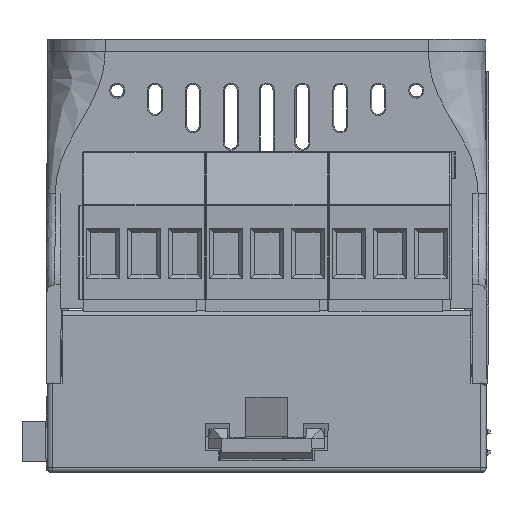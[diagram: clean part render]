
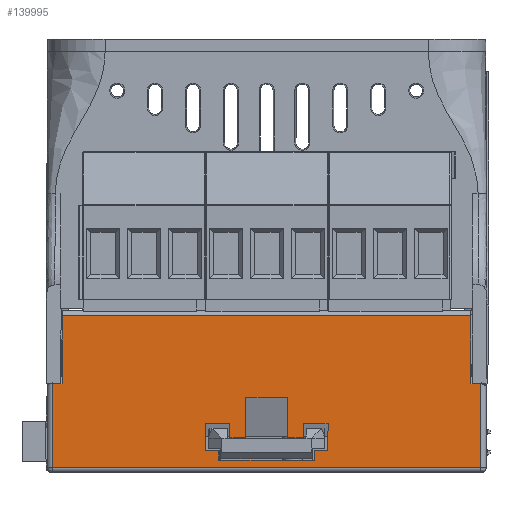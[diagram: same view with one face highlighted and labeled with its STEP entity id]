
A CAD part, front view. The second image highlights one B-rep face of the part: STEP entity #139995.
In plain terms, the highlighted planar face has unit normal (0, -1, 0).
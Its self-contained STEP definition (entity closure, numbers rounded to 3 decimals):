
#927=FACE_BOUND('',#21092,.T.);
#7355=PLANE('',#147864);
#13659=FACE_OUTER_BOUND('',#21091,.T.);
#21091=EDGE_LOOP('',(#106273,#106274,#106275,#106276,#106277,#106278,#106279,
#106280,#106281,#106282));
#21092=EDGE_LOOP('',(#106283,#106284,#106285,#106286,#106287,#106288,#106289,
#106290,#106291,#106292,#106293,#106294,#106295,#106296,#106297,#106298));
#32222=LINE('',#211479,#48170);
#32388=LINE('',#213374,#48336);
#32402=LINE('',#213592,#48350);
#32405=LINE('',#213603,#48353);
#32426=LINE('',#213655,#48374);
#33023=LINE('',#215056,#48971);
#33026=LINE('',#215061,#48974);
#33028=LINE('',#215065,#48976);
#33030=LINE('',#215069,#48978);
#33034=LINE('',#215075,#48982);
#33036=LINE('',#215079,#48984);
#33037=LINE('',#215082,#48985);
#33040=LINE('',#215087,#48988);
#33042=LINE('',#215091,#48990);
#33044=LINE('',#215095,#48992);
#33047=LINE('',#215100,#48995);
#33049=LINE('',#215104,#48997);
#33052=LINE('',#215109,#49000);
#33053=LINE('',#215112,#49001);
#33055=LINE('',#215116,#49003);
#33057=LINE('',#215119,#49005);
#33058=LINE('',#215122,#49006);
#33252=LINE('',#215628,#49200);
#33254=LINE('',#215631,#49202);
#33273=LINE('',#215675,#49221);
#33274=LINE('',#215677,#49222);
#48170=VECTOR('',#165152,1.);
#48336=VECTOR('',#165620,1.);
#48350=VECTOR('',#165662,1.);
#48353=VECTOR('',#165675,1.);
#48374=VECTOR('',#165712,1.);
#48971=VECTOR('',#166955,1.);
#48974=VECTOR('',#166960,1.);
#48976=VECTOR('',#166964,1.);
#48978=VECTOR('',#166968,1.);
#48982=VECTOR('',#166974,1.);
#48984=VECTOR('',#166978,1.);
#48985=VECTOR('',#166981,1.);
#48988=VECTOR('',#166986,1.);
#48990=VECTOR('',#166990,1.);
#48992=VECTOR('',#166994,1.);
#48995=VECTOR('',#166999,1.);
#48997=VECTOR('',#167003,1.);
#49000=VECTOR('',#167008,1.);
#49001=VECTOR('',#167011,1.);
#49003=VECTOR('',#167015,1.);
#49005=VECTOR('',#167019,1.);
#49006=VECTOR('',#167022,1.);
#49200=VECTOR('',#167504,1.);
#49202=VECTOR('',#167508,1.);
#49221=VECTOR('',#167555,1.);
#49222=VECTOR('',#167558,1.);
#62799=VERTEX_POINT('',#210680);
#62888=VERTEX_POINT('',#211477);
#63025=VERTEX_POINT('',#213371);
#63026=VERTEX_POINT('',#213373);
#63036=VERTEX_POINT('',#213590);
#63039=VERTEX_POINT('',#213602);
#63061=VERTEX_POINT('',#213652);
#63062=VERTEX_POINT('',#213654);
#63515=VERTEX_POINT('',#214963);
#63533=VERTEX_POINT('',#215053);
#63534=VERTEX_POINT('',#215055);
#63535=VERTEX_POINT('',#215059);
#63536=VERTEX_POINT('',#215063);
#63537=VERTEX_POINT('',#215068);
#63538=VERTEX_POINT('',#215073);
#63539=VERTEX_POINT('',#215077);
#63540=VERTEX_POINT('',#215081);
#63541=VERTEX_POINT('',#215086);
#63542=VERTEX_POINT('',#215090);
#63543=VERTEX_POINT('',#215094);
#63544=VERTEX_POINT('',#215099);
#63545=VERTEX_POINT('',#215103);
#63546=VERTEX_POINT('',#215107);
#63547=VERTEX_POINT('',#215111);
#63548=VERTEX_POINT('',#215115);
#63549=VERTEX_POINT('',#215121);
#77902=EDGE_CURVE('',#62799,#62888,#32222,.T.);
#78154=EDGE_CURVE('',#63026,#63025,#32388,.T.);
#78178=EDGE_CURVE('',#62888,#63036,#32402,.T.);
#78183=EDGE_CURVE('',#63039,#63026,#32405,.T.);
#78208=EDGE_CURVE('',#63062,#63061,#32426,.T.);
#78914=EDGE_CURVE('',#63534,#63533,#33023,.T.);
#78917=EDGE_CURVE('',#63535,#63534,#33026,.T.);
#78919=EDGE_CURVE('',#63535,#63536,#33028,.T.);
#78921=EDGE_CURVE('',#63536,#63537,#33030,.T.);
#78925=EDGE_CURVE('',#63538,#63537,#33034,.T.);
#78927=EDGE_CURVE('',#63538,#63539,#33036,.T.);
#78928=EDGE_CURVE('',#63540,#63539,#33037,.T.);
#78931=EDGE_CURVE('',#63540,#63541,#33040,.T.);
#78933=EDGE_CURVE('',#63542,#63541,#33042,.T.);
#78935=EDGE_CURVE('',#63542,#63543,#33044,.T.);
#78938=EDGE_CURVE('',#63543,#63544,#33047,.T.);
#78940=EDGE_CURVE('',#63545,#63544,#33049,.T.);
#78943=EDGE_CURVE('',#63546,#63545,#33052,.T.);
#78944=EDGE_CURVE('',#63547,#63546,#33053,.T.);
#78946=EDGE_CURVE('',#63548,#63547,#33055,.T.);
#78948=EDGE_CURVE('',#63533,#63548,#33057,.T.);
#78949=EDGE_CURVE('',#63549,#63515,#33058,.T.);
#79177=EDGE_CURVE('',#63515,#62799,#33252,.T.);
#79179=EDGE_CURVE('',#63036,#63062,#33254,.T.);
#79201=EDGE_CURVE('',#63039,#63061,#33273,.T.);
#79202=EDGE_CURVE('',#63025,#63549,#33274,.T.);
#106273=ORIENTED_EDGE('',*,*,#79202,.T.);
#106274=ORIENTED_EDGE('',*,*,#78949,.T.);
#106275=ORIENTED_EDGE('',*,*,#79177,.T.);
#106276=ORIENTED_EDGE('',*,*,#77902,.T.);
#106277=ORIENTED_EDGE('',*,*,#78178,.T.);
#106278=ORIENTED_EDGE('',*,*,#79179,.T.);
#106279=ORIENTED_EDGE('',*,*,#78208,.T.);
#106280=ORIENTED_EDGE('',*,*,#79201,.F.);
#106281=ORIENTED_EDGE('',*,*,#78183,.T.);
#106282=ORIENTED_EDGE('',*,*,#78154,.T.);
#106283=ORIENTED_EDGE('',*,*,#78948,.T.);
#106284=ORIENTED_EDGE('',*,*,#78946,.T.);
#106285=ORIENTED_EDGE('',*,*,#78944,.T.);
#106286=ORIENTED_EDGE('',*,*,#78943,.T.);
#106287=ORIENTED_EDGE('',*,*,#78940,.T.);
#106288=ORIENTED_EDGE('',*,*,#78938,.F.);
#106289=ORIENTED_EDGE('',*,*,#78935,.F.);
#106290=ORIENTED_EDGE('',*,*,#78933,.T.);
#106291=ORIENTED_EDGE('',*,*,#78931,.F.);
#106292=ORIENTED_EDGE('',*,*,#78928,.T.);
#106293=ORIENTED_EDGE('',*,*,#78927,.F.);
#106294=ORIENTED_EDGE('',*,*,#78925,.T.);
#106295=ORIENTED_EDGE('',*,*,#78921,.F.);
#106296=ORIENTED_EDGE('',*,*,#78919,.F.);
#106297=ORIENTED_EDGE('',*,*,#78917,.T.);
#106298=ORIENTED_EDGE('',*,*,#78914,.T.);
#139995=ADVANCED_FACE('',(#13659,#927),#7355,.F.);
#147864=AXIS2_PLACEMENT_3D('',#215676,#167556,#167557);
#165152=DIRECTION('',(-1.,0.,0.));
#165620=DIRECTION('',(-1.,0.,0.));
#165662=DIRECTION('',(-1.,0.,0.));
#165675=DIRECTION('',(-1.,0.,0.));
#165712=DIRECTION('',(-1.,0.,0.));
#166955=DIRECTION('',(1.,0.,0.));
#166960=DIRECTION('',(-0.009,0.,-1.));
#166964=DIRECTION('',(-1.,0.,0.009));
#166968=DIRECTION('',(0.009,0.,-1.));
#166974=DIRECTION('',(-1.,0.,0.));
#166978=DIRECTION('',(0.009,0.,-1.));
#166981=DIRECTION('',(-1.,0.,0.));
#166986=DIRECTION('',(0.009,0.,1.));
#166990=DIRECTION('',(-1.,0.,0.));
#166994=DIRECTION('',(0.009,0.,1.));
#166999=DIRECTION('',(-1.,0.,-0.009));
#167003=DIRECTION('',(-0.009,0.,1.));
#167008=DIRECTION('',(1.,0.,0.));
#167011=DIRECTION('',(0.,0.,-1.));
#167015=DIRECTION('',(1.,0.,0.));
#167019=DIRECTION('',(0.,0.,1.));
#167022=DIRECTION('',(1.,0.,0.));
#167504=DIRECTION('',(0.,0.,1.));
#167508=DIRECTION('',(0.,0.,1.));
#167555=DIRECTION('',(0.,0.,1.));
#167556=DIRECTION('center_axis',(0.,1.,0.));
#167557=DIRECTION('ref_axis',(0.,0.,
1.));
#167558=DIRECTION('',(0.,0.,-1.));
#210680=CARTESIAN_POINT('',(26.15,-44.644,4.871));
#211477=CARTESIAN_POINT('',(25.14,-44.644,4.871));
#211479=CARTESIAN_POINT('',(25.908,-44.644,4.871));
#213371=CARTESIAN_POINT('',(-26.15,-44.644,4.871));
#213373=CARTESIAN_POINT('',(-25.14,-44.644,4.871));
#213374=CARTESIAN_POINT('',(-25.908,-44.644,4.871));
#213590=CARTESIAN_POINT('',(24.941,-44.644,4.871));
#213592=CARTESIAN_POINT('',(25.908,-44.644,4.871));
#213602=CARTESIAN_POINT('',(-24.941,-44.644,4.871));
#213603=CARTESIAN_POINT('',(-25.908,-44.644,4.871));
#213652=CARTESIAN_POINT('',(-24.941,-44.644,13.156));
#213654=CARTESIAN_POINT('',(24.941,-44.644,13.156));
#213655=CARTESIAN_POINT('',(-38.979,-44.644,13.156));
#214963=CARTESIAN_POINT('',(26.15,-44.644,-5.4));
#215053=CARTESIAN_POINT('',(-2.55,-44.644,-1.725));
#215055=CARTESIAN_POINT('',(-4.498,-44.644,-1.725));
#215056=CARTESIAN_POINT('',(38.979,-44.644,-1.725));
#215059=CARTESIAN_POINT('',(-4.483,-44.644,-0.015));
#215061=CARTESIAN_POINT('',(-4.443,-44.644,4.558));
#215063=CARTESIAN_POINT('',(-7.496,-44.644,0.011));
#215065=CARTESIAN_POINT('',(-3.784,-44.644,-0.021));
#215068=CARTESIAN_POINT('',(-7.467,-44.644,-3.32));
#215069=CARTESIAN_POINT('',(-7.645,-44.644,17.1));
#215073=CARTESIAN_POINT('',(-5.867,-44.644,-3.32));
#215075=CARTESIAN_POINT('',(-3.728,-44.644,-3.32));
#215077=CARTESIAN_POINT('',(-5.857,-44.644,-4.5));
#215079=CARTESIAN_POINT('',(-5.855,-44.644,-4.646));
#215081=CARTESIAN_POINT('',(5.857,-44.644,-4.5));
#215082=CARTESIAN_POINT('',(-38.979,-44.644,-4.5));
#215086=CARTESIAN_POINT('',(5.867,-44.644,-3.32));
#215087=CARTESIAN_POINT('',(5.855,-44.644,-4.646));
#215090=CARTESIAN_POINT('',(7.467,-44.644,-3.32));
#215091=CARTESIAN_POINT('',(3.728,-44.644,-3.32));
#215094=CARTESIAN_POINT('',(7.496,-44.644,0.011));
#215095=CARTESIAN_POINT('',(7.645,-44.644,17.1));
#215099=CARTESIAN_POINT('',(4.483,-44.644,-0.015));
#215100=CARTESIAN_POINT('',(3.784,-44.644,-0.021));
#215103=CARTESIAN_POINT('',(4.498,-44.644,-1.725));
#215104=CARTESIAN_POINT('',(4.443,-44.644,4.558));
#215107=CARTESIAN_POINT('',(2.55,-44.644,-1.725));
#215109=CARTESIAN_POINT('',(-38.979,-44.644,-1.725));
#215111=CARTESIAN_POINT('',(2.55,-44.644,3.175));
#215112=CARTESIAN_POINT('',(2.55,-44.644,6.016));
#215115=CARTESIAN_POINT('',(-2.55,-44.644,3.175));
#215116=CARTESIAN_POINT('',(-38.979,-44.644,3.175));
#215119=CARTESIAN_POINT('',(-2.55,-44.644,6.016));
#215121=CARTESIAN_POINT('',(-26.15,-44.644,-5.4));
#215122=CARTESIAN_POINT('',(26.15,-44.644,-5.4));
#215628=CARTESIAN_POINT('',(26.15,-44.644,17.506));
#215631=CARTESIAN_POINT('',(24.941,-44.644,17.506));
#215675=CARTESIAN_POINT('',(-24.941,-44.644,17.506));
#215676=CARTESIAN_POINT('Origin',(-38.979,-44.644,17.506));
#215677=CARTESIAN_POINT('',(-26.15,-44.644,17.506));
